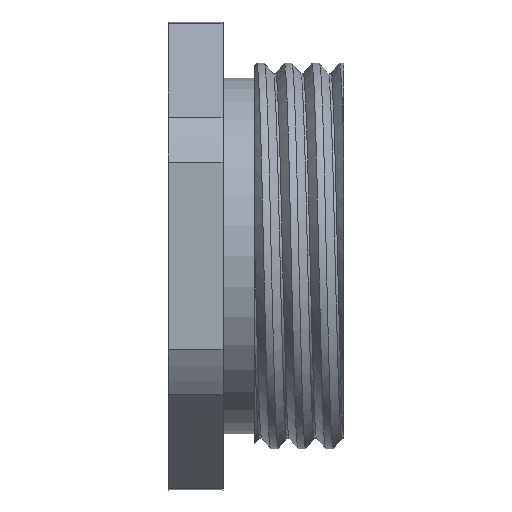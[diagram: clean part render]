
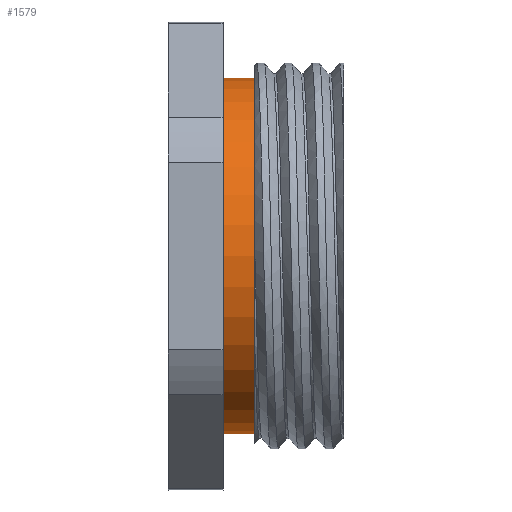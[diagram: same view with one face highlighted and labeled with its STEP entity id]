
A CAD part, front view. The second image highlights one B-rep face of the part: STEP entity #1579.
In plain terms, the highlighted cylindrical face has radius 9.106 mm (diameter 18.212 mm), a partial arc.
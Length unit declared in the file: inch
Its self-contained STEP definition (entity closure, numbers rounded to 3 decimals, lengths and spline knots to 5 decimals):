
#101 = EDGE_LOOP ( 'NONE', ( #3090, #1173, #1886, #257 ) ) ;
#211 = DIRECTION ( 'NONE',  ( 0., 0., 1. ) ) ;
#257 = ORIENTED_EDGE ( 'NONE', *, *, #1013, .F. ) ;
#443 = VERTEX_POINT ( 'NONE', #2133 ) ;
#575 = CYLINDRICAL_SURFACE ( 'NONE', #1001, 0.3585 ) ;
#720 = VECTOR ( 'NONE', #1662, 39.37008 ) ;
#850 = VERTEX_POINT ( 'NONE', #2711 ) ;
#853 = CARTESIAN_POINT ( 'NONE',  ( 0.174, 0., 0. ) ) ;
#912 = AXIS2_PLACEMENT_3D ( 'NONE', #853, #1779, #2361 ) ;
#913 = DIRECTION ( 'NONE',  ( -1., 0., 0. ) ) ;
#979 = VERTEX_POINT ( 'NONE', #1198 ) ;
#986 = VECTOR ( 'NONE', #2707, 39.37008 ) ;
#1001 = AXIS2_PLACEMENT_3D ( 'NONE', #2549, #913, #2829 ) ;
#1013 = EDGE_CURVE ( 'NONE', #979, #1450, #2985, .T. ) ;
#1173 = ORIENTED_EDGE ( 'NONE', *, *, #2410, .T. ) ;
#1198 = CARTESIAN_POINT ( 'NONE',  ( 0.11, 0., -0.3585 ) ) ;
#1450 = VERTEX_POINT ( 'NONE', #2138 ) ;
#1519 = DIRECTION ( 'NONE',  ( -1., 0., 0. ) ) ;
#1555 = CARTESIAN_POINT ( 'NONE',  ( -0.11095, 0., -0.3585 ) ) ;
#1575 = FACE_OUTER_BOUND ( 'NONE', #101, .T. ) ;
#1579 = ADVANCED_FACE ( 'NONE', ( #1575 ), #575, .T. ) ;
#1662 = DIRECTION ( 'NONE',  ( -1., 0., 0. ) ) ;
#1779 = DIRECTION ( 'NONE',  ( -1., 0., 0. ) ) ;
#1833 = EDGE_CURVE ( 'NONE', #443, #979, #2067, .T. ) ;
#1886 = ORIENTED_EDGE ( 'NONE', *, *, #2183, .T. ) ;
#2067 = LINE ( 'NONE', #1555, #986 ) ;
#2133 = CARTESIAN_POINT ( 'NONE',  ( 0.174, 0., -0.3585 ) ) ;
#2138 = CARTESIAN_POINT ( 'NONE',  ( 0.11, 0., 0.3585 ) ) ;
#2183 = EDGE_CURVE ( 'NONE', #850, #1450, #2608, .T. ) ;
#2361 = DIRECTION ( 'NONE',  ( 0., 0., 1. ) ) ;
#2410 = EDGE_CURVE ( 'NONE', #443, #850, #3173, .T. ) ;
#2549 = CARTESIAN_POINT ( 'NONE',  ( -0.11095, 0., 0. ) ) ;
#2608 = LINE ( 'NONE', #3290, #720 ) ;
#2707 = DIRECTION ( 'NONE',  ( -1., 0., 0. ) ) ;
#2711 = CARTESIAN_POINT ( 'NONE',  ( 0.174, 0., 0.3585 ) ) ;
#2829 = DIRECTION ( 'NONE',  ( 0., 0., 1. ) ) ;
#2887 = AXIS2_PLACEMENT_3D ( 'NONE', #3478, #1519, #211 ) ;
#2985 = CIRCLE ( 'NONE', #2887, 0.3585 ) ;
#3090 = ORIENTED_EDGE ( 'NONE', *, *, #1833, .F. ) ;
#3173 = CIRCLE ( 'NONE', #912, 0.3585 ) ;
#3290 = CARTESIAN_POINT ( 'NONE',  ( -0.11095, 0., 0.3585 ) ) ;
#3478 = CARTESIAN_POINT ( 'NONE',  ( 0.11, 0., 0. ) ) ;
